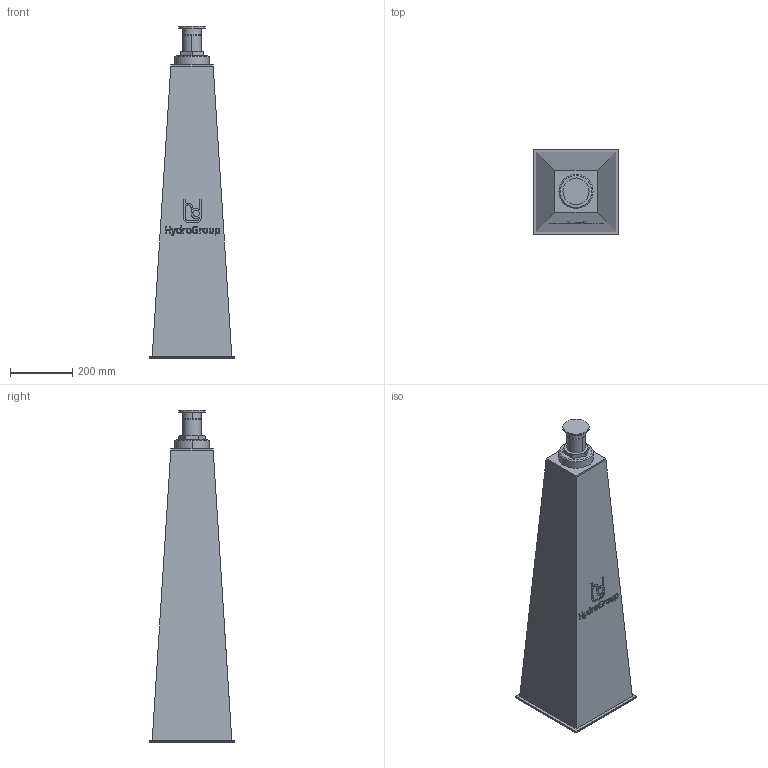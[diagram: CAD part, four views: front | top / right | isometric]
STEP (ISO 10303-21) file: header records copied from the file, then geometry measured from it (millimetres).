
FILE_DESCRIPTION(('STEP AP214'),'1');
FILE_NAME('RSRFE-III-09-V1.stp','2018-06-29T07:24:44',(' '),(' '),'Spatial InterOp 3D',' ',' ');
FILE_SCHEMA(('automotive_design'));
Length unit declared in the file: millimetre
Products named in the file (6): 1; 2; 3; 4; 5; 6
Bounding box: 276.01 x 276.01 x 1066 mm (x, y, z)
Volume: 38415905.5 mm3; surface area: 1112924.2 mm2
Topology: 6 solids, 6 shells, 216 faces, 530 edges, 345 vertices
Faces by surface type: plane 135, cylinder 33, extrusion 24, cone 20, torus 4
Entity records: 8704 total; most frequent: CARTESIAN_POINT 1771, ORIENTED_EDGE 1060, DIRECTION 987, EDGE_CURVE 530, VECTOR 397, LINE 373, VERTEX_POINT 345, AXIS2_PLACEMENT_3D 295
